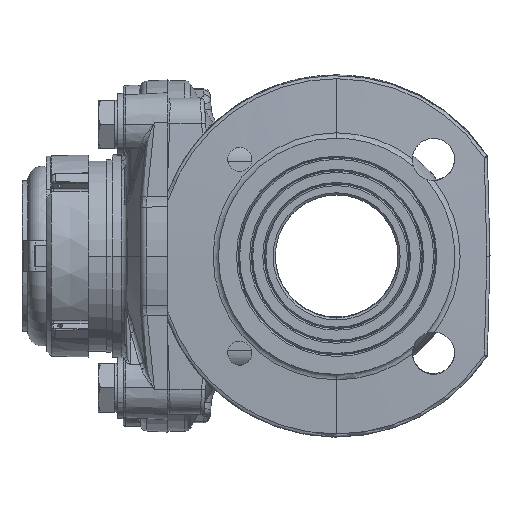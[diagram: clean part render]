
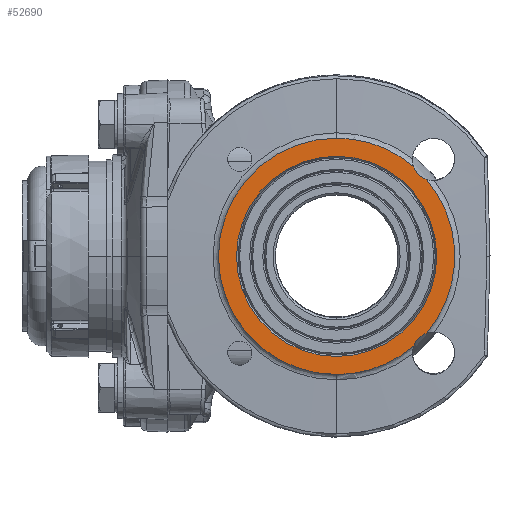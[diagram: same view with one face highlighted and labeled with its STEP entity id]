
A CAD part, left-side view. The second image highlights one B-rep face of the part: STEP entity #52690.
In plain terms, the highlighted planar face has unit normal (-1, 0, -0.002) as drawn and (1, 0, 0) by its records, which use the part's own axes.
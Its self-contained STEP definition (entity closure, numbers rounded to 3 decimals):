
#9595 = CIRCLE ( 'NONE', #9602, 45.693 ) ;
#9602 = AXIS2_PLACEMENT_3D ( 'NONE', #30963, #30965, #30967 ) ;
#9881 = CIRCLE ( 'NONE', #9904, 53.943 ) ;
#9886 = CIRCLE ( 'NONE', #9892, 53.943 ) ;
#9892 = AXIS2_PLACEMENT_3D ( 'NONE', #39316, #39317, #39318 ) ;
#9894 = CIRCLE ( 'NONE', #9895, 53.943 ) ;
#9895 = AXIS2_PLACEMENT_3D ( 'NONE', #39332, #39333, #39334 ) ;
#9904 = AXIS2_PLACEMENT_3D ( 'NONE', #39516, #39517, #39518 ) ;
#10421 = AXIS2_PLACEMENT_3D ( 'NONE', #44363, #44364, #44365 ) ;
#11119 = CIRCLE ( 'NONE', #11122, 53.943 ) ;
#11122 = AXIS2_PLACEMENT_3D ( 'NONE', #45378, #45379, #45380 ) ;
#20967 = EDGE_CURVE ( 'NONE', #62286, #62285, #69565, .T. ) ;
#20968 = EDGE_CURVE ( 'NONE', #61827, #62028, #69567, .T. ) ;
#20969 = EDGE_CURVE ( 'NONE', #62046, #61828, #69569, .T. ) ;
#29782 = FACE_OUTER_BOUND ( 'NONE', #31022, .T. ) ;
#29783 = FACE_BOUND ( 'NONE', #31024, .T. ) ;
#30963 = CARTESIAN_POINT ( 'NONE',  ( 83.001, 0., 0. ) ) ;
#30965 = DIRECTION ( 'NONE',  ( -1., 0., 0. ) ) ;
#30967 = DIRECTION ( 'NONE',  ( 0., 0., 1. ) ) ;
#31022 = EDGE_LOOP ( 'NONE', ( #59238, #59241, #59236, #59245, #59247, #59243 ) ) ;
#31024 = EDGE_LOOP ( 'NONE', ( #59251, #59254 ) ) ;
#32516 = EDGE_CURVE ( 'NONE', #62285, #62286, #9595, .T. ) ;
#32799 = EDGE_CURVE ( 'NONE', #62047, #62046, #9886, .T. ) ;
#32802 = EDGE_CURVE ( 'NONE', #62045, #62047, #9894, .T. ) ;
#32823 = EDGE_CURVE ( 'NONE', #62028, #62045, #9881, .T. ) ;
#39316 = CARTESIAN_POINT ( 'NONE',  ( 83.001, 0., 0. ) ) ;
#39317 = DIRECTION ( 'NONE',  ( -1., 0., 0. ) ) ;
#39318 = DIRECTION ( 'NONE',  ( 0., 0., 1. ) ) ;
#39332 = CARTESIAN_POINT ( 'NONE',  ( 83.001, 0., 0. ) ) ;
#39333 = DIRECTION ( 'NONE',  ( -1., 0., 0. ) ) ;
#39334 = DIRECTION ( 'NONE',  ( 0., 0., 1. ) ) ;
#39516 = CARTESIAN_POINT ( 'NONE',  ( 83.001, 0., 0. ) ) ;
#39517 = DIRECTION ( 'NONE',  ( -1., 0., 0. ) ) ;
#39518 = DIRECTION ( 'NONE',  ( 0., 0., 1. ) ) ;
#44362 = PLANE ( 'NONE',  #10421 ) ;
#44363 = CARTESIAN_POINT ( 'NONE',  ( 83.001, 45.693, 0. ) ) ;
#44364 = DIRECTION ( 'NONE',  ( 1., 0., 0. ) ) ;
#44365 = DIRECTION ( 'NONE',  ( 0., 0., -1. ) ) ;
#45378 = CARTESIAN_POINT ( 'NONE',  ( 83.001, 0., 0. ) ) ;
#45379 = DIRECTION ( 'NONE',  ( -1., 0., 0. ) ) ;
#45380 = DIRECTION ( 'NONE',  ( 0., 0., 1. ) ) ;
#51128 = CARTESIAN_POINT ( 'NONE',  ( 83.001, -40.959, 35.103 ) ) ;
#51130 = CARTESIAN_POINT ( 'NONE',  ( 83.001, -40.959, -35.103 ) ) ;
#51343 = CARTESIAN_POINT ( 'NONE',  ( 83.001, -35.103, 40.959 ) ) ;
#51362 = CARTESIAN_POINT ( 'NONE',  ( 83.001, 0., 53.943 ) ) ;
#51363 = CARTESIAN_POINT ( 'NONE',  ( 83.001, -35.103, -40.959 ) ) ;
#51364 = CARTESIAN_POINT ( 'NONE',  ( 83.001, 0., -53.943 ) ) ;
#51602 = CARTESIAN_POINT ( 'NONE',  ( 83.001, 0., -45.693 ) ) ;
#51603 = CARTESIAN_POINT ( 'NONE',  ( 83.001, 0., 45.693 ) ) ;
#52690 = ADVANCED_FACE ( 'NONE', ( #29782, #29783 ), #44362, .T. ) ;
#53343 = EDGE_CURVE ( 'NONE', #61828, #61827, #11119, .T. ) ;
#59236 = ORIENTED_EDGE ( 'NONE', *, *, #20969, .F. ) ;
#59238 = ORIENTED_EDGE ( 'NONE', *, *, #20968, .F. ) ;
#59241 = ORIENTED_EDGE ( 'NONE', *, *, #53343, .F. ) ;
#59243 = ORIENTED_EDGE ( 'NONE', *, *, #32823, .F. ) ;
#59245 = ORIENTED_EDGE ( 'NONE', *, *, #32799, .F. ) ;
#59247 = ORIENTED_EDGE ( 'NONE', *, *, #32802, .F. ) ;
#59251 = ORIENTED_EDGE ( 'NONE', *, *, #32516, .T. ) ;
#59254 = ORIENTED_EDGE ( 'NONE', *, *, #20967, .T. ) ;
#61827 = VERTEX_POINT ( 'NONE', #51128 ) ;
#61828 = VERTEX_POINT ( 'NONE', #51130 ) ;
#62028 = VERTEX_POINT ( 'NONE', #51343 ) ;
#62045 = VERTEX_POINT ( 'NONE', #51362 ) ;
#62046 = VERTEX_POINT ( 'NONE', #51363 ) ;
#62047 = VERTEX_POINT ( 'NONE', #51364 ) ;
#62285 = VERTEX_POINT ( 'NONE', #51602 ) ;
#62286 = VERTEX_POINT ( 'NONE', #51603 ) ;
#69565 = CIRCLE ( 'NONE', #69566, 45.693 ) ;
#69566 = AXIS2_PLACEMENT_3D ( 'NONE', #70013, #70014, #70015 ) ;
#69567 = CIRCLE ( 'NONE', #69568, 9.65 ) ;
#69568 = AXIS2_PLACEMENT_3D ( 'NONE', #70016, #70017, #70018 ) ;
#69569 = CIRCLE ( 'NONE', #70099, 9.65 ) ;
#70013 = CARTESIAN_POINT ( 'NONE',  ( 83.001, 0., 0. ) ) ;
#70014 = DIRECTION ( 'NONE',  ( -1., 0., 0. ) ) ;
#70015 = DIRECTION ( 'NONE',  ( 0., 0., 1. ) ) ;
#70016 = CARTESIAN_POINT ( 'NONE',  ( 83.001, -44.194, 44.194 ) ) ;
#70017 = DIRECTION ( 'NONE',  ( 1., 0., 0. ) ) ;
#70018 = DIRECTION ( 'NONE',  ( 0., 0., -1. ) ) ;
#70019 = CARTESIAN_POINT ( 'NONE',  ( 83.001, -44.194, -44.194 ) ) ;
#70020 = DIRECTION ( 'NONE',  ( 1., 0., 0. ) ) ;
#70021 = DIRECTION ( 'NONE',  ( 0., 0., -1. ) ) ;
#70099 = AXIS2_PLACEMENT_3D ( 'NONE', #70019, #70020, #70021 ) ;
